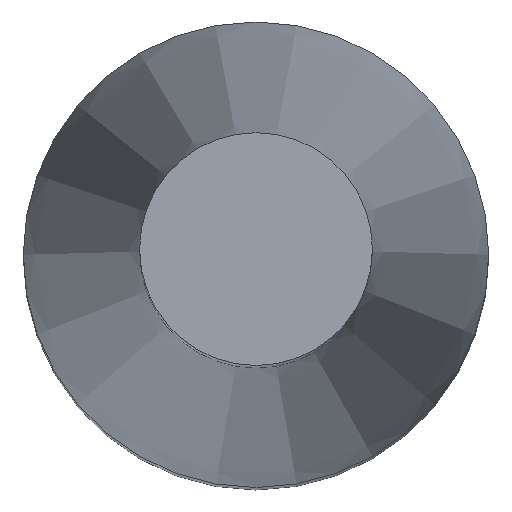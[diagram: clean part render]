
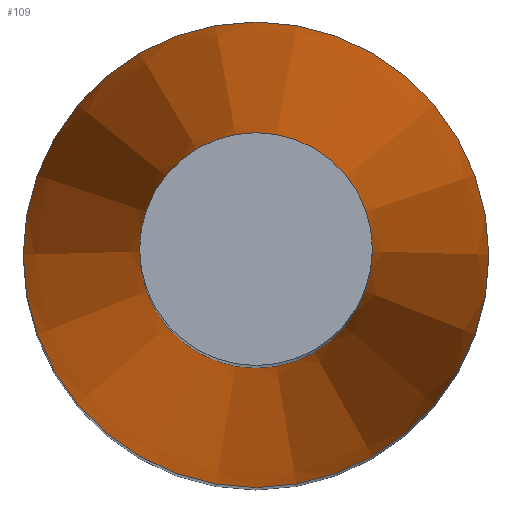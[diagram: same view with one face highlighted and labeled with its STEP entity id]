
A CAD part, top view. The second image highlights one B-rep face of the part: STEP entity #109.
In plain terms, the highlighted conical face has half-angle 3.576 degrees and reference radius 1 mm.
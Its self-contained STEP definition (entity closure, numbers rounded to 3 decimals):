
#43 = CYLINDRICAL_SURFACE('',#44,1.);
#44 = AXIS2_PLACEMENT_3D('',#45,#46,#47);
#45 = CARTESIAN_POINT('',(0.,0.,0.));
#46 = DIRECTION('',(0.,0.,1.));
#47 = DIRECTION('',(1.,0.,-0.));
#60 = VERTEX_POINT('',#61);
#61 = CARTESIAN_POINT('',(1.,0.,6.));
#82 = EDGE_CURVE('',#60,#60,#83,.T.);
#83 = SURFACE_CURVE('',#84,(#89,#96),.PCURVE_S1.);
#84 = CIRCLE('',#85,1.);
#85 = AXIS2_PLACEMENT_3D('',#86,#87,#88);
#86 = CARTESIAN_POINT('',(0.,0.,6.));
#87 = DIRECTION('',(0.,0.,1.));
#88 = DIRECTION('',(1.,0.,-0.));
#89 = PCURVE('',#43,#90);
#90 = DEFINITIONAL_REPRESENTATION('',(#91),#95);
#91 = LINE('',#92,#93);
#92 = CARTESIAN_POINT('',(0.,6.));
#93 = VECTOR('',#94,1.);
#94 = DIRECTION('',(1.,0.));
#95 = ( GEOMETRIC_REPRESENTATION_CONTEXT(2) 
PARAMETRIC_REPRESENTATION_CONTEXT() REPRESENTATION_CONTEXT('2D SPACE',''
  ) );
#96 = PCURVE('',#97,#102);
#97 = CONICAL_SURFACE('',#98,1.,0.062);
#98 = AXIS2_PLACEMENT_3D('',#99,#100,#101);
#99 = CARTESIAN_POINT('',(0.,0.,6.));
#100 = DIRECTION('',(-0.,-0.,-1.));
#101 = DIRECTION('',(1.,0.,-0.));
#102 = DEFINITIONAL_REPRESENTATION('',(#103),#107);
#103 = LINE('',#104,#105);
#104 = CARTESIAN_POINT('',(-0.,-0.));
#105 = VECTOR('',#106,1.);
#106 = DIRECTION('',(-1.,-0.));
#107 = ( GEOMETRIC_REPRESENTATION_CONTEXT(2) 
PARAMETRIC_REPRESENTATION_CONTEXT() REPRESENTATION_CONTEXT('2D SPACE',''
  ) );
#109 = ADVANCED_FACE('',(#110),#97,.T.);
#110 = FACE_BOUND('',#111,.T.);
#111 = EDGE_LOOP('',(#112,#113,#136,#163));
#112 = ORIENTED_EDGE('',*,*,#82,.T.);
#113 = ORIENTED_EDGE('',*,*,#114,.T.);
#114 = EDGE_CURVE('',#60,#115,#117,.T.);
#115 = VERTEX_POINT('',#116);
#116 = CARTESIAN_POINT('',(0.5,0.,14.));
#117 = SEAM_CURVE('',#118,(#122,#129),.PCURVE_S1.);
#118 = LINE('',#119,#120);
#119 = CARTESIAN_POINT('',(1.,0.,6.));
#120 = VECTOR('',#121,1.);
#121 = DIRECTION('',(-0.062,0.,0.998));
#122 = PCURVE('',#97,#123);
#123 = DEFINITIONAL_REPRESENTATION('',(#124),#128);
#124 = LINE('',#125,#126);
#125 = CARTESIAN_POINT('',(-0.,-0.));
#126 = VECTOR('',#127,1.);
#127 = DIRECTION('',(-0.,-1.));
#128 = ( GEOMETRIC_REPRESENTATION_CONTEXT(2) 
PARAMETRIC_REPRESENTATION_CONTEXT() REPRESENTATION_CONTEXT('2D SPACE',''
  ) );
#129 = PCURVE('',#97,#130);
#130 = DEFINITIONAL_REPRESENTATION('',(#131),#135);
#131 = LINE('',#132,#133);
#132 = CARTESIAN_POINT('',(-6.283,-0.));
#133 = VECTOR('',#134,1.);
#134 = DIRECTION('',(-0.,-1.));
#135 = ( GEOMETRIC_REPRESENTATION_CONTEXT(2) 
PARAMETRIC_REPRESENTATION_CONTEXT() REPRESENTATION_CONTEXT('2D SPACE',''
  ) );
#136 = ORIENTED_EDGE('',*,*,#137,.F.);
#137 = EDGE_CURVE('',#115,#115,#138,.T.);
#138 = SURFACE_CURVE('',#139,(#144,#151),.PCURVE_S1.);
#139 = CIRCLE('',#140,0.5);
#140 = AXIS2_PLACEMENT_3D('',#141,#142,#143);
#141 = CARTESIAN_POINT('',(0.,0.,14.));
#142 = DIRECTION('',(0.,0.,1.));
#143 = DIRECTION('',(1.,0.,-0.));
#144 = PCURVE('',#97,#145);
#145 = DEFINITIONAL_REPRESENTATION('',(#146),#150);
#146 = LINE('',#147,#148);
#147 = CARTESIAN_POINT('',(-0.,-8.));
#148 = VECTOR('',#149,1.);
#149 = DIRECTION('',(-1.,-0.));
#150 = ( GEOMETRIC_REPRESENTATION_CONTEXT(2) 
PARAMETRIC_REPRESENTATION_CONTEXT() REPRESENTATION_CONTEXT('2D SPACE',''
  ) );
#151 = PCURVE('',#152,#157);
#152 = CYLINDRICAL_SURFACE('',#153,0.5);
#153 = AXIS2_PLACEMENT_3D('',#154,#155,#156);
#154 = CARTESIAN_POINT('',(0.,0.,14.));
#155 = DIRECTION('',(0.,0.,1.));
#156 = DIRECTION('',(1.,0.,-0.));
#157 = DEFINITIONAL_REPRESENTATION('',(#158),#162);
#158 = LINE('',#159,#160);
#159 = CARTESIAN_POINT('',(0.,0.));
#160 = VECTOR('',#161,1.);
#161 = DIRECTION('',(1.,0.));
#162 = ( GEOMETRIC_REPRESENTATION_CONTEXT(2) 
PARAMETRIC_REPRESENTATION_CONTEXT() REPRESENTATION_CONTEXT('2D SPACE',''
  ) );
#163 = ORIENTED_EDGE('',*,*,#114,.F.);
